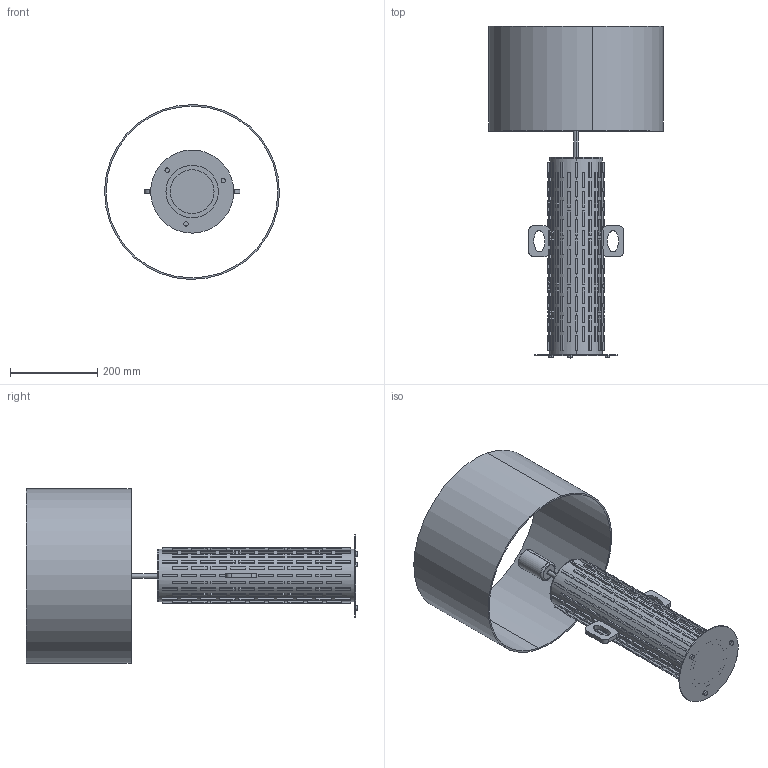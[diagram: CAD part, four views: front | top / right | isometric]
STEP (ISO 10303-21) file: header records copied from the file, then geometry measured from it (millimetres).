
FILE_DESCRIPTION (( 'STEP AP214' ), '1' );
FILE_NAME ('NAC147.STEP', '2025-12-17T09:48:26', ( '' ), ( '' ), 'SwSTEP 2.0', 'SolidWorks 2023', '' );
FILE_SCHEMA (( 'AUTOMOTIVE_DESIGN' ));
Length unit declared in the file: millimetre
Products named in the file (3): NAC147; NAC148.sfgedtep; NAC147-2
Assembly tree (2 placements, depth 2):
  NAC147
    NAC147-2
    NAC148.sfgedtep
Bounding box: 399.96 x 758.88 x 399.96 mm (x, y, z)
Volume: 1967003.9 mm3; surface area: 1164265 mm2
Topology: 24 solids, 28 shells, 1236 faces, 2924 edges, 1948 vertices
Faces by surface type: plane 1188, cylinder 36, bspline 7, torus 4, cone 1
Entity records: 37977 total; most frequent: CARTESIAN_POINT 8529, DIRECTION 5898, ORIENTED_EDGE 5848, EDGE_CURVE 2924, VECTOR 2392, LINE 2392, VERTEX_POINT 1948, AXIS2_PLACEMENT_3D 1753
